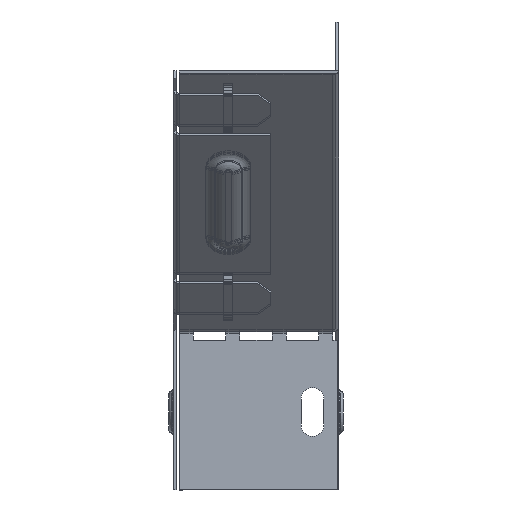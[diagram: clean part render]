
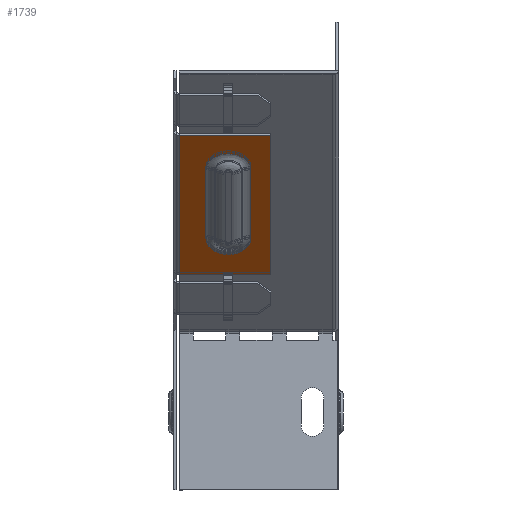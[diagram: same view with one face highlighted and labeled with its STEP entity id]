
A CAD part, left-side view. The second image highlights one B-rep face of the part: STEP entity #1739.
In plain terms, the highlighted planar face has unit normal (-0.707, 0, -0.707).
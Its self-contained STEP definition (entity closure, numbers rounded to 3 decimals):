
#150 = EDGE_CURVE ( 'NONE', #6991, #18705, #15130, .T. ) ;
#725 = CARTESIAN_POINT ( 'NONE',  ( -378.087, 48.2, -18.591 ) ) ;
#759 = DIRECTION ( 'NONE',  ( 0.5, -0.707, -0.5 ) ) ;
#884 = LINE ( 'NONE', #725, #19370 ) ;
#1739 = ADVANCED_FACE ( 'NONE', ( #13217, #7054 ), #6967, .F. ) ;
#1826 = EDGE_LOOP ( 'NONE', ( #15959, #6933, #11412, #7667 ) ) ;
#1945 = EDGE_CURVE ( 'NONE', #18705, #7201, #16667, .T. ) ;
#2305 = CARTESIAN_POINT ( 'NONE',  ( -351.206, 40.017, -45.472 ) ) ;
#3141 = CARTESIAN_POINT ( 'NONE',  ( -190.837, 20., -205.841 ) ) ;
#3421 = LINE ( 'NONE', #9229, #14329 ) ;
#3495 = EDGE_CURVE ( 'NONE', #9507, #4538, #12343, .T. ) ;
#3637 = CARTESIAN_POINT ( 'NONE',  ( -329.993, 40.017, -66.685 ) ) ;
#3849 = DIRECTION ( 'NONE',  ( 0.707, 0., -0.707 ) ) ;
#4538 = VERTEX_POINT ( 'NONE', #6334 ) ;
#5038 = ORIENTED_EDGE ( 'NONE', *, *, #16367, .F. ) ;
#5273 = CARTESIAN_POINT ( 'NONE',  ( -329.993, 26.183, -66.685 ) ) ;
#6019 = VECTOR ( 'NONE', #7946, 1000. ) ;
#6234 = CARTESIAN_POINT ( 'NONE',  ( -329.993, 33.1, -66.685 ) ) ;
#6334 = CARTESIAN_POINT ( 'NONE',  ( -351.206, 26.183, -45.472 ) ) ;
#6403 = ORIENTED_EDGE ( 'NONE', *, *, #150, .T. ) ;
#6545 = CIRCLE ( 'NONE', #11351, 6.917 ) ;
#6599 = VERTEX_POINT ( 'NONE', #7627 ) ;
#6713 = AXIS2_PLACEMENT_3D ( 'NONE', #14590, #17546, #3849 ) ;
#6762 = DIRECTION ( 'NONE',  ( 0.707, 0., 0.707 ) ) ;
#6933 = ORIENTED_EDGE ( 'NONE', *, *, #8400, .T. ) ;
#6967 = PLANE ( 'NONE',  #6713 ) ;
#6991 = VERTEX_POINT ( 'NONE', #11212 ) ;
#7054 = FACE_OUTER_BOUND ( 'NONE', #18391, .T. ) ;
#7201 = VERTEX_POINT ( 'NONE', #10448 ) ;
#7627 = CARTESIAN_POINT ( 'NONE',  ( -361.823, 48.2, -34.855 ) ) ;
#7667 = ORIENTED_EDGE ( 'NONE', *, *, #3495, .T. ) ;
#7740 = DIRECTION ( 'NONE',  ( 0.5, -0.707, -0.5 ) ) ;
#7946 = DIRECTION ( 'NONE',  ( -0.707, 0., 0.707 ) ) ;
#8256 = CARTESIAN_POINT ( 'NONE',  ( -361.823, 20., -34.855 ) ) ;
#8400 = EDGE_CURVE ( 'NONE', #19264, #11409, #6545, .T. ) ;
#9229 = CARTESIAN_POINT ( 'NONE',  ( -329.993, 40.017, -66.685 ) ) ;
#9507 = VERTEX_POINT ( 'NONE', #2305 ) ;
#9569 = CARTESIAN_POINT ( 'NONE',  ( -319.022, 20., -77.656 ) ) ;
#10448 = CARTESIAN_POINT ( 'NONE',  ( -361.823, 20., -34.855 ) ) ;
#11090 = ORIENTED_EDGE ( 'NONE', *, *, #1945, .T. ) ;
#11212 = CARTESIAN_POINT ( 'NONE',  ( -319.022, 48.2, -77.656 ) ) ;
#11231 = DIRECTION ( 'NONE',  ( -0.707, 0., 0.707 ) ) ;
#11310 = DIRECTION ( 'NONE',  ( 0., 1., 0. ) ) ;
#11351 = AXIS2_PLACEMENT_3D ( 'NONE', #6234, #16821, #7740 ) ;
#11356 = LINE ( 'NONE', #8256, #18935 ) ;
#11409 = VERTEX_POINT ( 'NONE', #3637 ) ;
#11412 = ORIENTED_EDGE ( 'NONE', *, *, #12228, .T. ) ;
#11961 = CARTESIAN_POINT ( 'NONE',  ( -329.993, 26.183, -66.685 ) ) ;
#12163 = EDGE_CURVE ( 'NONE', #4538, #19264, #13852, .T. ) ;
#12228 = EDGE_CURVE ( 'NONE', #11409, #9507, #3421, .T. ) ;
#12343 = CIRCLE ( 'NONE', #12561, 6.917 ) ;
#12561 = AXIS2_PLACEMENT_3D ( 'NONE', #14310, #6762, #759 ) ;
#12751 = ORIENTED_EDGE ( 'NONE', *, *, #17832, .T. ) ;
#13217 = FACE_BOUND ( 'NONE', #1826, .T. ) ;
#13470 = CARTESIAN_POINT ( 'NONE',  ( -319.022, 20., -77.656 ) ) ;
#13600 = DIRECTION ( 'NONE',  ( -0.707, 0., 0.707 ) ) ;
#13662 = DIRECTION ( 'NONE',  ( 0.707, 0., -0.707 ) ) ;
#13852 = LINE ( 'NONE', #11961, #14081 ) ;
#14081 = VECTOR ( 'NONE', #13662, 1000. ) ;
#14310 = CARTESIAN_POINT ( 'NONE',  ( -351.206, 33.1, -45.472 ) ) ;
#14329 = VECTOR ( 'NONE', #13600, 1000. ) ;
#14590 = CARTESIAN_POINT ( 'NONE',  ( -190.837, 50., -205.841 ) ) ;
#15130 = LINE ( 'NONE', #13470, #16050 ) ;
#15959 = ORIENTED_EDGE ( 'NONE', *, *, #12163, .T. ) ;
#16050 = VECTOR ( 'NONE', #17984, 1000. ) ;
#16367 = EDGE_CURVE ( 'NONE', #6991, #6599, #884, .T. ) ;
#16667 = LINE ( 'NONE', #3141, #6019 ) ;
#16821 = DIRECTION ( 'NONE',  ( 0.707, 0., 0.707 ) ) ;
#17546 = DIRECTION ( 'NONE',  ( 0.707, 0., 0.707 ) ) ;
#17832 = EDGE_CURVE ( 'NONE', #7201, #6599, #11356, .T. ) ;
#17984 = DIRECTION ( 'NONE',  ( 0., -1., 0. ) ) ;
#18391 = EDGE_LOOP ( 'NONE', ( #5038, #6403, #11090, #12751 ) ) ;
#18705 = VERTEX_POINT ( 'NONE', #9569 ) ;
#18935 = VECTOR ( 'NONE', #11310, 1000. ) ;
#19264 = VERTEX_POINT ( 'NONE', #5273 ) ;
#19370 = VECTOR ( 'NONE', #11231, 1000. ) ;
